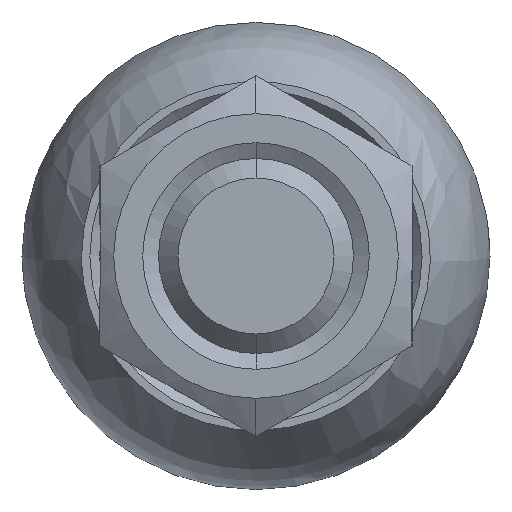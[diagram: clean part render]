
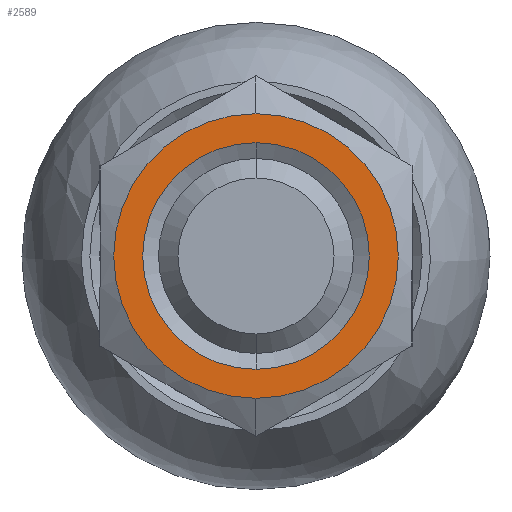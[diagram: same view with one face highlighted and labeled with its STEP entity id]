
A CAD part, left-side view. The second image highlights one B-rep face of the part: STEP entity #2589.
In plain terms, the highlighted planar face has unit normal (-1, 0, 0).
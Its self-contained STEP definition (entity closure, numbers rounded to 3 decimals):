
#81 = DIRECTION ( 'NONE',  ( -1., 0., 0. ) ) ;
#116 = DIRECTION ( 'NONE',  ( 1., 0., 0. ) ) ;
#162 = EDGE_CURVE ( 'NONE', #1360, #1527, #2079, .T. ) ;
#332 = DIRECTION ( 'NONE',  ( 0., 0., 1. ) ) ;
#338 = CARTESIAN_POINT ( 'NONE',  ( -65.476, 0., 5.812 ) ) ;
#415 = EDGE_LOOP ( 'NONE', ( #2917, #2979 ) ) ;
#497 = AXIS2_PLACEMENT_3D ( 'NONE', #2587, #727, #3422 ) ;
#530 = EDGE_CURVE ( 'NONE', #1527, #1360, #1419, .T. ) ;
#564 = FACE_OUTER_BOUND ( 'NONE', #1643, .T. ) ;
#679 = ORIENTED_EDGE ( 'NONE', *, *, #162, .F. ) ;
#727 = DIRECTION ( 'NONE',  ( 1., 0., 0. ) ) ;
#777 = CARTESIAN_POINT ( 'NONE',  ( -65.476, 0., 0. ) ) ;
#847 = CARTESIAN_POINT ( 'NONE',  ( -65.476, 0., 0. ) ) ;
#1219 = AXIS2_PLACEMENT_3D ( 'NONE', #847, #81, #332 ) ;
#1360 = VERTEX_POINT ( 'NONE', #2254 ) ;
#1419 = CIRCLE ( 'NONE', #497, 7.3 ) ;
#1431 = DIRECTION ( 'NONE',  ( 0., 0., -1. ) ) ;
#1527 = VERTEX_POINT ( 'NONE', #2303 ) ;
#1542 = EDGE_CURVE ( 'NONE', #2569, #2286, #2980, .T. ) ;
#1643 = EDGE_LOOP ( 'NONE', ( #3105, #679 ) ) ;
#1679 = AXIS2_PLACEMENT_3D ( 'NONE', #1839, #3394, #2054 ) ;
#1839 = CARTESIAN_POINT ( 'NONE',  ( -65.476, 0., 0. ) ) ;
#1968 = CIRCLE ( 'NONE', #1219, 5.812 ) ;
#1981 = CARTESIAN_POINT ( 'NONE',  ( -65.476, 0., 0. ) ) ;
#2007 = EDGE_CURVE ( 'NONE', #2286, #2569, #1968, .T. ) ;
#2054 = DIRECTION ( 'NONE',  ( 0., 0., 1. ) ) ;
#2079 = CIRCLE ( 'NONE', #3247, 7.3 ) ;
#2254 = CARTESIAN_POINT ( 'NONE',  ( -65.476, 0., 7.3 ) ) ;
#2286 = VERTEX_POINT ( 'NONE', #3216 ) ;
#2303 = CARTESIAN_POINT ( 'NONE',  ( -65.476, 0., -7.3 ) ) ;
#2400 = DIRECTION ( 'NONE',  ( 1., 0., 0. ) ) ;
#2569 = VERTEX_POINT ( 'NONE', #338 ) ;
#2587 = CARTESIAN_POINT ( 'NONE',  ( -65.476, 0., 0. ) ) ;
#2589 = ADVANCED_FACE ( 'NONE', ( #3217, #564 ), #3291, .F. ) ;
#2917 = ORIENTED_EDGE ( 'NONE', *, *, #1542, .F. ) ;
#2924 = DIRECTION ( 'NONE',  ( 0., 0., -1. ) ) ;
#2968 = AXIS2_PLACEMENT_3D ( 'NONE', #1981, #116, #1431 ) ;
#2979 = ORIENTED_EDGE ( 'NONE', *, *, #2007, .F. ) ;
#2980 = CIRCLE ( 'NONE', #1679, 5.812 ) ;
#3105 = ORIENTED_EDGE ( 'NONE', *, *, #530, .F. ) ;
#3216 = CARTESIAN_POINT ( 'NONE',  ( -65.476, 0., -5.812 ) ) ;
#3217 = FACE_BOUND ( 'NONE', #415, .T. ) ;
#3247 = AXIS2_PLACEMENT_3D ( 'NONE', #777, #2400, #2924 ) ;
#3291 = PLANE ( 'NONE',  #2968 ) ;
#3394 = DIRECTION ( 'NONE',  ( -1., 0., 0. ) ) ;
#3422 = DIRECTION ( 'NONE',  ( 0., 0., -1. ) ) ;
